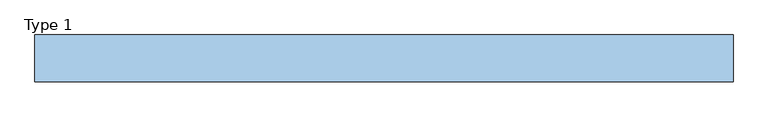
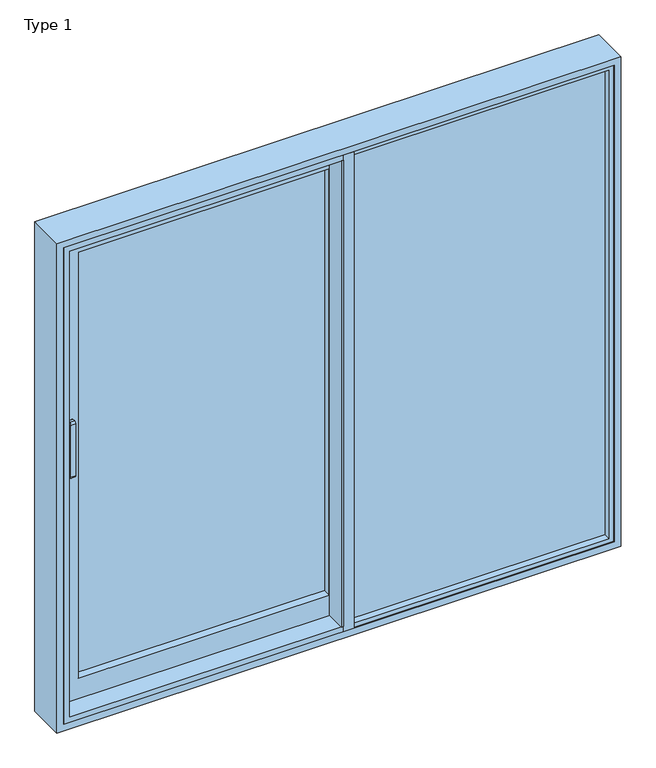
"""IFC4 building model written with IfcOpenShell, lengths in millimetres: window geometry, ETEM_ES70_Single_Lift_Sliding_HT_NI : Type 1."""

from ifc_helpers import new_model, si_unit, point, frame, frame_2d, origin, place, context, project, spatial, polyline, circle_curve, trimmed, segment, composite_curve, outline, extrude, faceted_brep, source, transform, mapped, element, save


def type_1_3cdb790b(model_context):
    return source(origin(), model_context, "Body", "SolidModel", [
        extrude(outline(composite_curve([segment(polyline([(45.5992454, 1090.0), (14.0255606, 1090.0)]), True, "CONTINUOUS"), segment(trimmed(circle_curve(frame_2d((14.0255606, 1098.4263152)), 8.4263152), [point((14.0255606, 1090.0))], [point((5.5992454, 1098.4263152))], False, "CARTESIAN"), True, "CONTINUOUS"), segment(polyline([(5.5992454, 1098.4263152), (5.5992454, 1331.5736848)]), True, "CONTINUOUS"), segment(trimmed(circle_curve(frame_2d((14.0255606, 1331.5736848)), 8.4263152), [point((5.5992454, 1331.5736848))], [point((14.0255606, 1340.0))], False, "CARTESIAN"), True, "CONTINUOUS"), segment(polyline([(14.0255606, 1340.0), (25.5992454, 1340.0)]), True, "CONTINUOUS"), segment(trimmed(circle_curve(frame_2d((25.5992454, 1335.0)), 5.0), [point((25.5992454, 1340.0))], [point((25.5992454, 1330.0))], False, "CARTESIAN"), True, "CONTINUOUS"), segment(polyline([(25.5992454, 1330.0), (19.1347793, 1330.0)]), True, "CONTINUOUS"), segment(trimmed(circle_curve(frame_2d((19.1347793, 1326.4644661)), 3.5355339), [point((19.1347793, 1330.0))], [point((15.5992454, 1326.4644661))], True, "CARTESIAN"), True, "CONTINUOUS"), segment(polyline([(15.5992454, 1326.4644661), (15.5992454, 1113.5355339)]), True, "CONTINUOUS"), segment(trimmed(circle_curve(frame_2d((19.1347793, 1113.5355339)), 3.5355339), [point((15.5992454, 1113.5355339))], [point((19.1347793, 1110.0))], True, "CARTESIAN"), True, "CONTINUOUS"), segment(polyline([(19.1347793, 1110.0), (45.5992454, 1110.0), (45.5992454, 1090.0)]), True, "CONTINUOUS")], self_intersect=False)), frame((-1118.5, 0.0, 0.0), z_axis=(1.0, 0.0, 0.0), x_axis=(0.0, 1.0, 0.0)), (0.0, 0.0, 1.0), 20.0),
        extrude(outline(polyline([(-1093.5, 45.5992454), (-1123.5, 45.5992454), (-1123.5, 58.5992454), (-1093.5, 58.5992454), (-1093.5, 45.5992454)])), frame((0.0, 0.0, 1065.0), z_axis=(0.0, 0.0, 1.0), x_axis=(1.0, 0.0, 0.0)), (0.0, 0.0, 1.0), 70.0),
        faceted_brep([(1200.0, -31.4, 2200.0), (1200.0, -31.4, 0.0), (1200.0, 130.0, 0.0), (1200.0, 130.0, 2200.0), (-1200.0, -31.4, 2200.0), (-1200.0, -31.4, 0.0), (1171.3, -31.4, 28.7), (-1171.3, -31.4, 28.7), (-1171.3, -31.4, 2171.3), (1171.3, -31.4, 2171.3), (-1200.0, 130.0, 0.0), (-1200.0, 130.0, 2200.0), (1183.5, 130.0, 2183.5), (-1183.5, 130.0, 2183.5), (-1183.5, 130.0, 16.5), (1183.5, 130.0, 16.5), (1183.5, 98.1, 2183.5), (1183.5, 98.1, 16.5), (-1183.5, 98.1, 16.5), (-1183.5, 98.1, 2183.5), (1160.0, 98.1, 2160.0), (-1160.0, 98.1, 2160.0), (-1160.0, 98.1, 40.0), (1160.0, 98.1, 40.0), (1160.0, 112.1, 2160.0), (1160.0, 112.1, 40.0), (-1160.0, 112.1, 40.0), (-1160.0, 112.1, 2160.0), (1151.8, 112.1, 2151.8), (-1151.8, 112.1, 2151.8), (-1151.8, 112.1, 48.2), (1151.8, 112.1, 48.2), (1151.8, 89.1, 2151.8), (1151.8, 89.1, 48.2), (-1151.8, 89.1, 48.2), (1183.5, 89.1, 2183.5), (-1183.5, 89.1, 2183.5), (-1183.5, 89.1, 16.5), (1183.5, 89.1, 16.5), (-1151.8, 89.1, 2151.8), (1183.5, 38.6, 2183.5), (1183.5, 38.6, 16.5), (-1183.5, 38.6, 16.5), (-1183.5, 38.6, 2183.5), (1152.0, 38.6, 2152.0), (-1152.0, 38.6, 2152.0), (-1152.0, 38.6, 48.0), (1152.0, 38.6, 48.0), (1171.3, -26.4, 2171.3), (1171.3, -26.4, 28.7), (-1171.3, -26.4, 2171.3), (-1171.3, -26.4, 28.7), (1152.0, -26.4, 48.0), (-1152.0, -26.4, 48.0), (-1152.0, -26.4, 2152.0), (1152.0, -26.4, 2152.0)], [[[0, 1, 2, 3]], [[0, 4, 5, 1], [6, 7, 8, 9]], [[2, 1, 5, 10]], [[2, 10, 11, 3], [12, 13, 14, 15]], [[16, 12, 15, 17]], [[17, 15, 14, 18]], [[17, 18, 19, 16], [20, 21, 22, 23]], [[24, 20, 23, 25]], [[25, 23, 22, 26]], [[25, 26, 27, 24], [28, 29, 30, 31]], [[32, 28, 31, 33]], [[33, 31, 30, 34]], [[35, 36, 37, 38], [33, 34, 39, 32]], [[40, 35, 38, 41]], [[41, 38, 37, 42]], [[41, 42, 43, 40], [44, 45, 46, 47]], [[9, 48, 49, 6]], [[48, 50, 51, 49], [52, 53, 54, 55]], [[6, 49, 51, 7]], [[10, 5, 4, 11]], [[18, 14, 13, 19]], [[26, 22, 21, 27]], [[34, 30, 29, 39]], [[42, 37, 36, 43]], [[7, 51, 50, 8]], [[53, 46, 45, 54]], [[52, 47, 46, 53]], [[55, 44, 47, 52]], [[11, 4, 0, 3]], [[19, 13, 12, 16]], [[27, 21, 20, 24]], [[39, 29, 28, 32]], [[43, 36, 35, 40]], [[8, 50, 48, 9]], [[54, 45, 44, 55]]]),
        faceted_brep([(10.5062173, 70.9992454, 38.8188293), (10.5062173, 58.5992454, 38.8188293), (-1161.0, 58.5992454, 38.8188293), (-1161.0, 70.9992454, 38.8188293), (10.5062173, 116.1992454, 69.9188293), (10.5062173, 70.9992454, 69.9188293), (-1129.9, 70.9992454, 69.9188293), (-1129.9, 116.1992454, 69.9188293), (10.5062173, 128.5992454, 38.8188293), (10.5062173, 116.1992454, 38.8188293), (-1161.0, 116.1992454, 38.8188293), (-1161.0, 128.5992454, 38.8188293), (10.5062173, 58.5992454, 141.8188293), (10.5062173, 128.5992454, 141.8188293), (-1058.0, 128.5992454, 141.8188293), (-1058.0, 58.5992454, 141.8188293), (-1161.0, 58.5992454, 2160.9811707), (-1161.0, 70.9992454, 2160.9811707), (-1129.9, 70.9992454, 2129.8811707), (-1129.9, 116.1992454, 2129.8811707), (-1161.0, 116.1992454, 2160.9811707), (-1161.0, 128.5992454, 2160.9811707), (-1058.0, 128.5992454, 2057.9811707), (-1058.0, 58.5992454, 2057.9811707), (10.5062173, 58.5992454, 2160.9811707), (10.5062173, 70.9992454, 2160.9811707), (10.5062173, 70.9992454, 2129.8811707), (10.5062173, 116.1992454, 2129.8811707), (10.5062173, 116.1992454, 2160.9811707), (10.5062173, 128.5992454, 2160.9811707), (10.5062173, 128.5992454, 2057.9811707), (10.5062173, 58.5992454, 2057.9811707)], [[[0, 1, 2, 3]], [[4, 5, 6, 7]], [[8, 9, 10, 11]], [[12, 13, 14, 15]], [[3, 2, 16, 17]], [[7, 6, 18, 19]], [[11, 10, 20, 21]], [[15, 14, 22, 23]], [[17, 16, 24, 25]], [[19, 18, 26, 27]], [[21, 20, 28, 29]], [[23, 22, 30, 31]], [[12, 1, 0, 5, 4, 9, 8, 13]], [[1, 12, 15, 23, 31, 24, 16, 2]], [[5, 0, 3, 17, 25, 26, 18, 6]], [[9, 4, 7, 19, 27, 28, 20, 10]], [[13, 8, 11, 21, 29, 30, 22, 14]], [[31, 30, 29, 28, 27, 26, 25, 24]]]),
        extrude(outline(polyline([(64.5062173, 46.7992454), (54.5062173, 46.7992454), (54.5062173, 128.5992454), (64.5062173, 128.5992454), (64.5062173, 46.7992454)])), frame((0.0, 0.0, 38.8188293), z_axis=(0.0, 0.0, 1.0), x_axis=(1.0, 0.0, 0.0)), (0.0, 0.0, 1.0), 2122.1623414),
        extrude(outline(polyline([(10.5062173, 54.6), (20.5062173, 54.6), (20.5062173, -31.4), (10.5062173, -31.4), (10.5062173, 54.6)])), frame((0.0, 0.0, 52.0), z_axis=(0.0, 0.0, 1.0), x_axis=(1.0, 0.0, 0.0)), (0.0, 0.0, 1.0), 2096.0),
        extrude(outline(polyline([(-1058.1, 120.6015137), (10.5062173, 120.6015137), (10.5062173, 114.6015137), (-1058.1, 114.6015137), (-1058.1, 120.6015137)])), frame((0.0, 0.0, 141.8188293), z_axis=(0.0, 0.0, 1.0), x_axis=(1.0, 0.0, 0.0)), (0.0, 0.0, 1.0), 1916.1623414),
        extrude(outline(polyline([(64.5062173, 30.6000045), (1152.0, 30.6000045), (1152.0, 24.6000045), (64.5062173, 24.6000045), (64.5062173, 30.6000045)])), frame((0.0, 0.0, 48.0), z_axis=(0.0, 0.0, 1.0), x_axis=(1.0, 0.0, 0.0)), (0.0, 0.0, 1.0), 2104.0),
        extrude(outline(polyline([(20.5062173, -31.4), (20.5062173, 38.6), (64.5062173, 38.6), (64.5062173, -31.4), (20.5062173, -31.4)])), frame((0.0, 0.0, 28.7), z_axis=(0.0, 0.0, 1.0), x_axis=(1.0, 0.0, 0.0)), (0.0, 0.0, 1.0), 2142.6),
        faceted_brep([(20.4062173, 38.6, 48.0), (20.4062173, 38.6, 41.879881), (20.4062173, 54.6, 41.879881), (20.4062173, 54.6, 52.0), (20.4062173, -31.4, 52.0), (20.4062173, -31.4, 28.7), (20.4062173, -26.4, 28.7), (20.4062173, -26.4, 48.0), (-1152.0, 38.6, 48.0), (-1152.0, 38.6, 2152.0), (20.4062173, 38.6, 2152.0), (20.4062173, 38.6, 2158.120119), (-1158.120119, 38.6, 2158.120119), (-1158.120119, 38.6, 41.879881), (-1158.120119, 54.6, 41.879881), (-1158.120119, 54.6, 2158.120119), (20.4062173, 54.6, 2158.120119), (20.4062173, 54.6, 2148.0), (-1148.0, 54.6, 2148.0), (-1148.0, 54.6, 52.0), (-1148.0, -31.4, 52.0), (-1148.0, -31.4, 2148.0), (20.4062173, -31.4, 2148.0), (20.4062173, -31.4, 2171.3), (-1171.3, -31.4, 2171.3), (-1171.3, -31.4, 28.7), (-1171.3, -26.4, 28.7), (-1171.3, -26.4, 2171.3), (20.4062173, -26.4, 2171.3), (20.4062173, -26.4, 2152.0), (-1152.0, -26.4, 2152.0), (-1152.0, -26.4, 48.0)], [[[0, 1, 2, 3, 4, 5, 6, 7]], [[1, 0, 8, 9, 10, 11, 12, 13]], [[2, 1, 13, 14]], [[3, 2, 14, 15, 16, 17, 18, 19]], [[4, 3, 19, 20]], [[5, 4, 20, 21, 22, 23, 24, 25]], [[6, 5, 25, 26]], [[7, 6, 26, 27, 28, 29, 30, 31]], [[0, 7, 31, 8]], [[8, 31, 30, 9]], [[14, 13, 12, 15]], [[20, 19, 18, 21]], [[26, 25, 24, 27]], [[10, 29, 28, 23, 22, 17, 16, 11]], [[15, 12, 11, 16]], [[21, 18, 17, 22]], [[9, 30, 29, 10]], [[27, 24, 23, 28]]]),
        extrude(outline(polyline([(-1058.1, 98.6015137), (10.5062173, 98.6015137), (10.5062173, 92.6015137), (-1058.1, 92.6015137), (-1058.1, 98.6015137)])), frame((0.0, 0.0, 141.8188293), z_axis=(0.0, 0.0, 1.0), x_axis=(1.0, 0.0, 0.0)), (0.0, 0.0, 1.0), 1916.1623414),
        extrude(outline(polyline([(64.5062173, 8.6000045), (1152.0, 8.6000045), (1152.0, 2.6000045), (64.5062173, 2.6000045), (64.5062173, 8.6000045)])), frame((0.0, 0.0, 48.0), z_axis=(0.0, 0.0, 1.0), x_axis=(1.0, 0.0, 0.0)), (0.0, 0.0, 1.0), 2104.0),
        extrude(outline(polyline([(54.5062173, 58.6007546), (10.5062173, 58.6007546), (10.5062173, 128.5992454), (54.5062173, 128.5992454), (54.5062173, 58.6007546)])), frame((0.0, 0.0, 38.8188293), z_axis=(0.0, 0.0, 1.0), x_axis=(1.0, 0.0, 0.0)), (0.0, 0.0, 1.0), 2122.1623414),
    ])


if __name__ == "__main__":
    model = new_model("IFC4")
    model_context = context("Model", 3, world=origin())
    ifc_project = project(units=[si_unit("LENGTHUNIT", "METRE", prefix="MILLI")], contexts=[model_context])
    site = spatial("IfcSite", under=ifc_project)
    building = spatial("IfcBuilding", under=site)
    placement = place(None, origin())
    type_1_shape = type_1_3cdb790b(model_context)
    element("IfcWindow", 1, ObjectType="ETEM_ES70_Single_Lift_Sliding_HT_NI : Type 1", at=placement, inside=building, context=model_context, shape_type="MappedRepresentation", body=[
        mapped(type_1_shape, transform((0.0, 0.0, 0.0), x_axis=(1.0, 0.0, 0.0), y_axis=(0.0, 1.0, 0.0), z_axis=(0.0, 0.0, 1.0))),
    ])
    save(model, "model.ifc")
